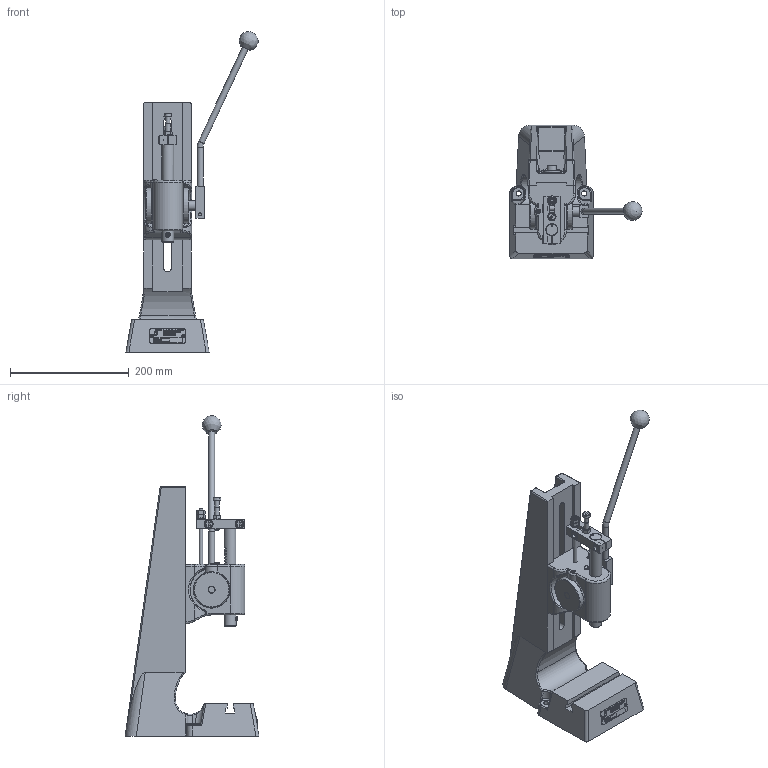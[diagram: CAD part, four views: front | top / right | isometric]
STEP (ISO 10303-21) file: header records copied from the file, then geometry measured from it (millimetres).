
FILE_DESCRIPTION(/* description */ ('Pressenständer 250'),/* implementation_level */ '2;1');
FILE_NAME(/* name */ 'B:\02_CAD_oeffentlich\CAD_3D_oeffentlich_step\Zahnstangen Presse\HP_250_Z.stp',/* time_stamp */ '2016-11-17T07:48:32+01:00',/* author */ ('Finsterle'),/* organization */ (''),/* preprocessor_version */ 'ST-DEVELOPER v16.1',/* originating_system */ 'Autodesk Inventor 2016',/* authorisation */ '');
FILE_SCHEMA (('AUTOMOTIVE_DESIGN { 1 0 10303 214 3 1 1 }'));
Products named in the file (5): HBF-000287_V; HBF-000719_V; HBF-000314; HBF-000315; HBF-000720_V
Assembly tree (5 placements, depth 2):
  HBF-000720_V
    HBF-000287_V
    HBF-000719_V
    HBF-000314
    HBF-000315  x2
Bounding box: 222.41 x 225.05 x 539.08 mm (x, y, z)
Volume: 2587438.3 mm3; surface area: 343096 mm2
Topology: 6 solids, 6 shells, 2668 faces, 7075 edges, 4656 vertices
Faces by surface type: plane 1453, bspline 955, cylinder 153, cone 53, torus 40, sphere 14
Full cylindrical faces by diameter (mm): 2.8 x1, 3 x4, 3.15 x1, 3.3 x2, 4.917 x1, 6 x3, 6.1 x1, 6.5 x2, 6.6 x1, 6.647 x5, 7.233 x1, 8 x6, 8.376 x1, 8.4 x1, 8.5 x4, 9.98 x2, 10 x6, 10.5 x1, 11 x2, 12 x1, 13 x2, 15 x2, 16 x4, 20 x2, 28 x2, 60 x2
Entity records: 94477 total; most frequent: CARTESIAN_POINT 32790, ORIENTED_EDGE 13788, DIRECTION 8805, EDGE_CURVE 6894, VERTEX_POINT 4606, LINE 4391, VECTOR 4391, EDGE_LOOP 3046
